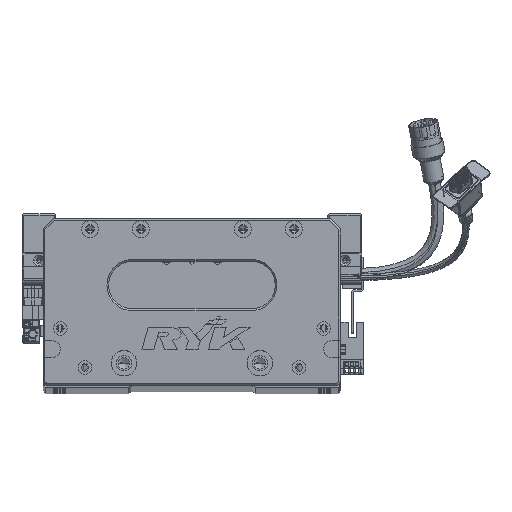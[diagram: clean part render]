
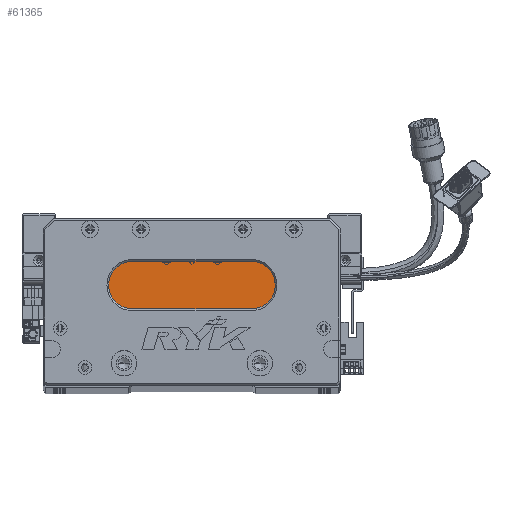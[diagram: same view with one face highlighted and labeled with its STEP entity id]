
A CAD part, top view. The second image highlights one B-rep face of the part: STEP entity #61365.
In plain terms, the highlighted planar face has unit normal (0, 0, 1) as drawn and (0, 0, -1) by its records, which use the part's own axes.
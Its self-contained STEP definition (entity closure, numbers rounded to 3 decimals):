
#4439 = DIRECTION ( 'NONE',  ( 0., 0., -1. ) ) ;
#10255 = AXIS2_PLACEMENT_3D ( 'NONE', #22512, #4439, #49854 ) ;
#10402 = EDGE_CURVE ( 'NONE', #16095, #84846, #54397, .T. ) ;
#15662 = CARTESIAN_POINT ( 'NONE',  ( 52.5, 59., 18. ) ) ;
#16095 = VERTEX_POINT ( 'NONE', #59507 ) ;
#16422 = DIRECTION ( 'NONE',  ( -1., 0., 0. ) ) ;
#21349 = EDGE_LOOP ( 'NONE', ( #53222, #78064, #111900, #25325, #111120 ) ) ;
#22512 = CARTESIAN_POINT ( 'NONE',  ( 52.5, 59., 18. ) ) ;
#23446 = CIRCLE ( 'NONE', #101483, 14. ) ;
#24632 = CIRCLE ( 'NONE', #99908, 14. ) ;
#25325 = ORIENTED_EDGE ( 'NONE', *, *, #71634, .T. ) ;
#25906 = DIRECTION ( 'NONE',  ( 1., 0., 0. ) ) ;
#27934 = DIRECTION ( 'NONE',  ( -1., 0., 0. ) ) ;
#37440 = EDGE_CURVE ( 'NONE', #84846, #89514, #23446, .T. ) ;
#38089 = AXIS2_PLACEMENT_3D ( 'NONE', #104268, #68890, #96180 ) ;
#42300 = DIRECTION ( 'NONE',  ( 0., 0., -1. ) ) ;
#45886 = FACE_OUTER_BOUND ( 'NONE', #21349, .T. ) ;
#49854 = DIRECTION ( 'NONE',  ( -1., 0., 0. ) ) ;
#49922 = CARTESIAN_POINT ( 'NONE',  ( 122.5, 59., 18. ) ) ;
#51248 = CARTESIAN_POINT ( 'NONE',  ( 52.5, 45., 18. ) ) ;
#51810 = VERTEX_POINT ( 'NONE', #114040 ) ;
#52745 = VERTEX_POINT ( 'NONE', #51248 ) ;
#53222 = ORIENTED_EDGE ( 'NONE', *, *, #37440, .T. ) ;
#54397 = LINE ( 'NONE', #104874, #112252 ) ;
#55667 = CARTESIAN_POINT ( 'NONE',  ( 122.5, 45., 18. ) ) ;
#58332 = VECTOR ( 'NONE', #27934, 1000. ) ;
#58809 = DIRECTION ( 'NONE',  ( -1., 0., 0. ) ) ;
#59507 = CARTESIAN_POINT ( 'NONE',  ( 52.5, 73., 18. ) ) ;
#61365 = ADVANCED_FACE ( 'NONE', ( #45886 ), #84667, .T. ) ;
#68890 = DIRECTION ( 'NONE',  ( 0., 0., -1. ) ) ;
#71634 = EDGE_CURVE ( 'NONE', #51810, #16095, #81993, .T. ) ;
#78064 = ORIENTED_EDGE ( 'NONE', *, *, #95858, .T. ) ;
#81773 = LINE ( 'NONE', #55667, #58332 ) ;
#81993 = CIRCLE ( 'NONE', #10255, 14. ) ;
#84667 = PLANE ( 'NONE',  #38089 ) ;
#84846 = VERTEX_POINT ( 'NONE', #114292 ) ;
#85460 = EDGE_CURVE ( 'NONE', #52745, #51810, #24632, .T. ) ;
#89514 = VERTEX_POINT ( 'NONE', #103816 ) ;
#95858 = EDGE_CURVE ( 'NONE', #89514, #52745, #81773, .T. ) ;
#96180 = DIRECTION ( 'NONE',  ( -1., 0., 0. ) ) ;
#99908 = AXIS2_PLACEMENT_3D ( 'NONE', #15662, #42300, #16422 ) ;
#101483 = AXIS2_PLACEMENT_3D ( 'NONE', #49922, #111506, #58809 ) ;
#103816 = CARTESIAN_POINT ( 'NONE',  ( 122.5, 45., 18. ) ) ;
#104268 = CARTESIAN_POINT ( 'NONE',  ( 122.5, 59., 18. ) ) ;
#104874 = CARTESIAN_POINT ( 'NONE',  ( 122.5, 73., 18. ) ) ;
#111120 = ORIENTED_EDGE ( 'NONE', *, *, #10402, .T. ) ;
#111506 = DIRECTION ( 'NONE',  ( 0., 0., -1. ) ) ;
#111900 = ORIENTED_EDGE ( 'NONE', *, *, #85460, .T. ) ;
#112252 = VECTOR ( 'NONE', #25906, 1000. ) ;
#114040 = CARTESIAN_POINT ( 'NONE',  ( 38.5, 59., 18. ) ) ;
#114292 = CARTESIAN_POINT ( 'NONE',  ( 122.5, 73., 18. ) ) ;
